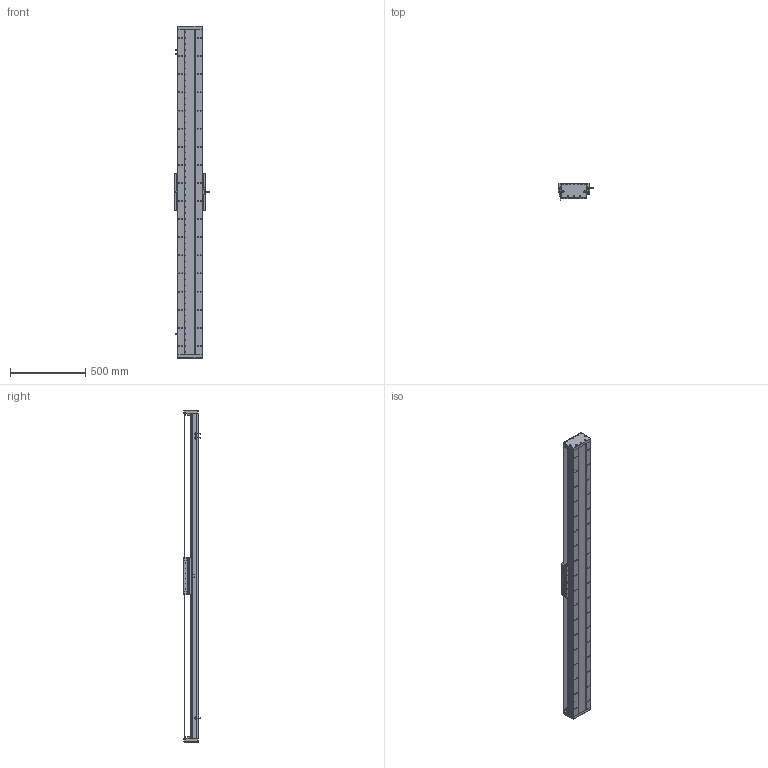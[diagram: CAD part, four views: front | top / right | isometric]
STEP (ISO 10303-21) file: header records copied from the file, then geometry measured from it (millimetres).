
FILE_DESCRIPTION (( 'STEP AP203' ), '1' );
FILE_NAME ('DA-C165-C3-T1860-C010-0.2 直线电机.STEP', '2023-06-13T08:49:37', ( '微软用户' ), ( '微软中国' ), 'SwSTEP 2.0', 'SolidWorks 2019', '' );
FILE_SCHEMA (( 'CONFIG_CONTROL_DESIGN' ));
Length unit declared in the file: millimetre
Products named in the file (18): 复件 DA165-GD-DG-H-00 端盖^复件 CU165钢带组件_DA-C165-C3-T-C010-0.2-N 直线电机; 葩璃 DA95-GT-T-00^IU-CU165-L 菁釱絳寢_T; DA-C165-C3-T1860-C010-0.2 眻盄萇儂; 葩璃 PM-T45^DA-C165-C3-T-C010-0.2-N 眻盄萇儂; 复件 六角薄螺母 M3^DA-C165-C3-T-C010-0.2-N 直线电机_GB_FASTENER_NUT_STNAB M3-C; 复件 DA165-GDYK-00 钢带压块^复件 CU165钢带组件_DA-C165-C3-T-C010-0.2-N 直线电机; 复件 DA165-GYP-00 光电感应片^DA-C165-C3-T-C010-0.2-N 直线电机; 复件 DMA-010-0.2 读数头^DA-C165-C3-T-C010-0.2-N 直线电机; 复件 DA165-GD-1860-002-00 钢带盖板^复件 CU165钢带组件_DA-C165-C3-T-C010-0.2-N 直线电机; 复件 XD-U-02L 磁栅尺^DA-C165-C3-T-C010-0.2-N 直线电机_T; 葩璃 CKM03-W075-C1C2-TP-3.0^DA-C165-C3-T-C010-0.2-N 眻盄萇儂; 复件 CU165钢带组件^DA-C165-C3-T-C010-0.2-N 直线电机; IU-CU165-L 菁釱絳寢; 葩璃 CKM01-W075-TRL^DA-C165-C3-T-C010-0.2-N 眻盄萇儂; 珨极趙賑雄怢啣C3-wf; 复件 DA165-GDLK-00 钢带拉块^复件 CU165钢带组件_DA-C165-C3-T-C010-0.2-N 直线电机; 复件 DA95-HXJ-00 缓冲橡胶^DA-C165-C3-T-C010-0.2-N 直线电机; 复件 CU165 底座^IU-CU165-L 底座导轨_L2160
Assembly tree (35 placements, depth 3):
  DA-C165-C3-T1860-C010-0.2 眻盄萇儂
    IU-CU165-L 菁釱絳寢
      复件 CU165 底座^IU-CU165-L 底座导轨_L2160
      葩璃 DA95-GT-T-00^IU-CU165-L 菁釱絳寢_T  x4
    复件 XD-U-02L 磁栅尺^DA-C165-C3-T-C010-0.2-N 直线电机_T
    葩璃 PM-T45^DA-C165-C3-T-C010-0.2-N 眻盄萇儂  x3
    葩璃 CKM01-W075-TRL^DA-C165-C3-T-C010-0.2-N 眻盄萇儂
    复件 CU165钢带组件^DA-C165-C3-T-C010-0.2-N 直线电机
      复件 DA165-GD-DG-H-00 端盖^复件 CU165钢带组件_DA-C165-C3-T-C010-0.2-N 直线电机  x2
      复件 DA165-GDYK-00 钢带压块^复件 CU165钢带组件_DA-C165-C3-T-C010-0.2-N 直线电机  x2
      复件 DA165-GD-1860-002-00 钢带盖板^复件 CU165钢带组件_DA-C165-C3-T-C010-0.2-N 直线电机
      复件 DA165-GDLK-00 钢带拉块^复件 CU165钢带组件_DA-C165-C3-T-C010-0.2-N 直线电机  x2
    复件 DA95-HXJ-00 缓冲橡胶^DA-C165-C3-T-C010-0.2-N 直线电机  x4
    复件 DA165-GYP-00 光电感应片^DA-C165-C3-T-C010-0.2-N 直线电机
    复件 DMA-010-0.2 读数头^DA-C165-C3-T-C010-0.2-N 直线电机
    葩璃 CKM03-W075-C1C2-TP-3.0^DA-C165-C3-T-C010-0.2-N 眻盄萇儂
    复件 六角薄螺母 M3^DA-C165-C3-T-C010-0.2-N 直线电机_GB_FASTENER_NUT_STNAB M3-C  x8
    珨极趙賑雄怢啣C3-wf
Bounding box: 233 x 111.45 x 2200 mm (x, y, z)
Volume: 13112505.8 mm3; surface area: 3828148.6 mm2
Topology: 72 solids, 122 shells, 4138 faces, 11631 edges, 7314 vertices
Faces by surface type: cylinder 2312, plane 1200, cone 576, torus 46, sphere 4
Entity records: 132325 total; most frequent: CARTESIAN_POINT 34655, ORIENTED_EDGE 20014, DIRECTION 19899, EDGE_CURVE 10007, AXIS2_PLACEMENT_3D 7628, VERTEX_POINT 6502, EDGE_LOOP 4711, LINE 4643
